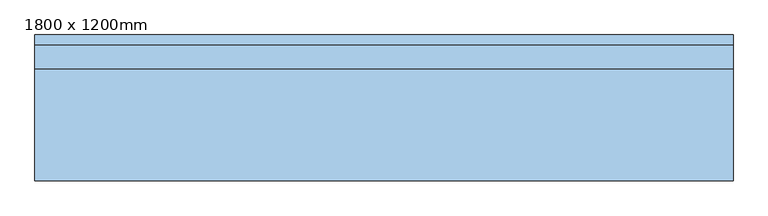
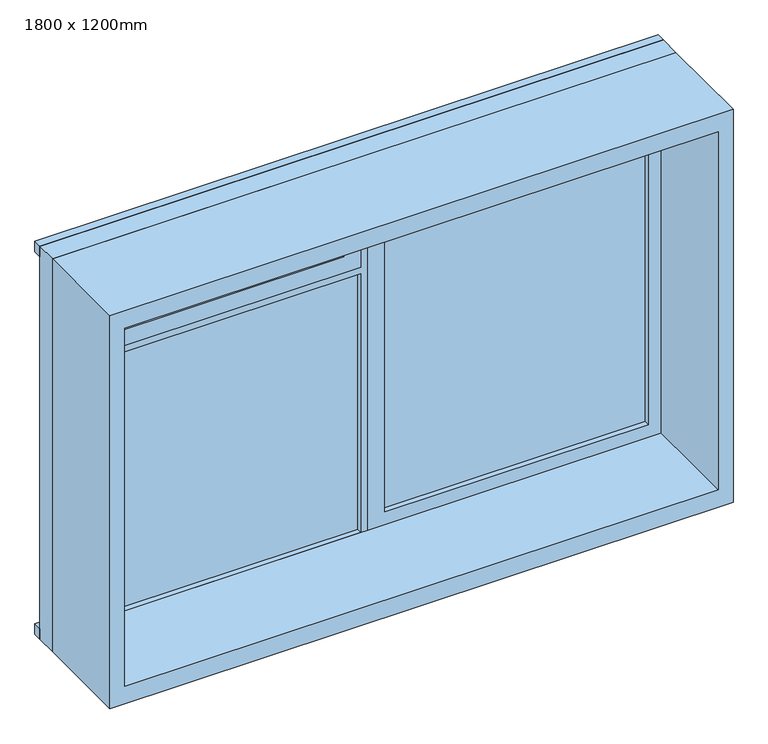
"""IFC4 building model written with IfcOpenShell, lengths in millimetres: window geometry, DvoukridleVentilace : 1800 x 1200mm."""

import ifcopenshell
import ifcopenshell.guid

model = None  # the IFC model being written
_history = None  # IfcOwnerHistory: only IFC2X3 demands one
_inside = {}  # id of a spatial element -> (the spatial element, [elements in it])
_under = {}  # id of a project, library or spatial element -> (it, [spatial elements below it])
_declared = {}  # id of a project -> (the project, [libraries it declares])
_typed = {}  # id of a type object -> (the type object, [elements of that type])
_made_of = {}  # id of a material, layer set ... -> (it, [elements and type objects made of it])


def new_model(schema):
    """Start an empty IFC model of exactly this schema.

    Asked for "IFC4X3", IfcOpenShell would pick the latest addendum, in which some entities
    have other attributes; the version numbers below select the first issue.
    IFC2X3 requires an IfcOwnerHistory on every rooted entity: one is made here for all.
    """
    global model, _history
    if schema == "IFC4X3":
        model = ifcopenshell.file(schema_version=(4, 3, 0, 0))
    else:
        model = ifcopenshell.file(schema=schema)
    _inside.clear()
    _under.clear()
    _declared.clear()
    _typed.clear()
    _made_of.clear()
    _history = None
    if model.schema == "IFC2X3":
        org = make("IfcOrganization", Name="unknown")
        user = make(
            "IfcPersonAndOrganization",
            ThePerson=make("IfcPerson", FamilyName="unknown"),
            TheOrganization=org,
        )
        app = make(
            "IfcApplication",
            ApplicationDeveloper=org,
            Version="unknown",
            ApplicationFullName="unknown",
            ApplicationIdentifier="unknown",
        )
        _history = make(
            "IfcOwnerHistory",
            OwningUser=user,
            OwningApplication=app,
            ChangeAction="ADDED",
            CreationDate=0,
        )
    return model


def make(cls, **values):
    """One entity of the class cls with the attributes given. An attribute that is None is left unset."""
    return model.create_entity(
        cls, **{name: value for name, value in values.items() if value is not None}
    )


def rooted(cls, **values):
    """An entity with a GlobalId (a new one), such as an element, a storey or a relation."""
    return make(cls, GlobalId=ifcopenshell.guid.new(), OwnerHistory=_history, **values)


def si_unit(unit_type, name, prefix=None):
    """IfcSIUnit, for example si_unit("LENGTHUNIT", "METRE", prefix="MILLI")."""
    return make("IfcSIUnit", UnitType=unit_type, Prefix=prefix, Name=name)


def assignment(units):
    """IfcUnitAssignment: the units of a project."""
    return None if units is None else make("IfcUnitAssignment", Units=units)


def point(xyz):
    """IfcCartesianPoint."""
    return None if xyz is None else make("IfcCartesianPoint", Coordinates=xyz)


def direction(xyz):
    """IfcDirection."""
    return None if xyz is None else make("IfcDirection", DirectionRatios=xyz)


def frame(location, z_axis=None, x_axis=None):
    """IfcAxis2Placement3D, a coordinate frame: its origin and axes. An axis left out is left unset."""
    return make(
        "IfcAxis2Placement3D",
        Location=point(location),
        Axis=direction(z_axis),
        RefDirection=direction(x_axis),
    )


def origin():
    """The frame at (0, 0, 0) with its axes left unset."""
    return frame((0.0, 0.0, 0.0))


def place(relative_to, where):
    """IfcLocalPlacement: puts the frame where relative to a parent placement (None: the world)."""
    return make(
        "IfcLocalPlacement", PlacementRelTo=relative_to, RelativePlacement=where
    )


def context(
    kind, dimensions, precision=None, world=None, true_north=None, identifier=None
):
    """IfcGeometricRepresentationContext, for example the 3D "Model" context."""
    return make(
        "IfcGeometricRepresentationContext",
        ContextIdentifier=identifier,
        ContextType=kind,
        CoordinateSpaceDimension=dimensions,
        Precision=precision,
        WorldCoordinateSystem=world,
        TrueNorth=true_north,
    )


def project(units=None, contexts=None):
    """IfcProject with its units and contexts."""
    return rooted(
        "IfcProject",
        Name="project",
        RepresentationContexts=contexts,
        UnitsInContext=assignment(units),
    )


def spatial(cls, under=None, at=None, **own):
    """A site, building, storey or space (cls), placed at a placement, below another one or the project."""
    s = rooted(cls, ObjectPlacement=at, **own)
    if under is not None:
        _under.setdefault(under.id(), (under, []))[1].append(s)
    return s


def polyline(points):
    """IfcPolyline through the points."""
    return make("IfcPolyline", Points=[point(p) for p in points])


def outline(outer, holes=None, kind="AREA"):
    """IfcArbitraryClosedProfileDef: a profile drawn as a closed curve; with holes, ...WithVoids."""
    if holes is None:
        return make("IfcArbitraryClosedProfileDef", ProfileType=kind, OuterCurve=outer)
    return make(
        "IfcArbitraryProfileDefWithVoids",
        ProfileType=kind,
        OuterCurve=outer,
        InnerCurves=holes,
    )


def extrude(swept, where, along, depth):
    """IfcExtrudedAreaSolid: the profile swept, set in the frame where, extruded along a direction by depth."""
    return make(
        "IfcExtrudedAreaSolid",
        SweptArea=swept,
        Position=where,
        ExtrudedDirection=direction(along),
        Depth=depth,
    )


def shape(context_of_items, identifier, shape_type, items):
    """IfcShapeRepresentation: the items that make up one representation, for example the "Body"."""
    return make(
        "IfcShapeRepresentation",
        ContextOfItems=context_of_items,
        RepresentationIdentifier=identifier,
        RepresentationType=shape_type,
        Items=items,
    )


def source(mapping_origin, context_of_items, identifier, shape_type, items):
    """IfcRepresentationMap: a shape defined once, which mapped items show again and again."""
    return make(
        "IfcRepresentationMap",
        MappingOrigin=mapping_origin,
        MappedRepresentation=shape(context_of_items, identifier, shape_type, items),
    )


def transform(
    local_origin,
    x_axis=None,
    y_axis=None,
    z_axis=None,
    scale=None,
    scale2=None,
    scale3=None,
    uniform=True,
):
    """IfcCartesianTransformationOperator3D, or its non-uniform kind. x_axis, y_axis, z_axis: its Axis1, 2, 3."""
    if uniform:
        return make(
            "IfcCartesianTransformationOperator3D",
            Axis1=direction(x_axis),
            Axis2=direction(y_axis),
            LocalOrigin=point(local_origin),
            Scale=scale,
            Axis3=direction(z_axis),
        )
    return make(
        "IfcCartesianTransformationOperator3DnonUniform",
        Axis1=direction(x_axis),
        Axis2=direction(y_axis),
        LocalOrigin=point(local_origin),
        Scale=scale,
        Axis3=direction(z_axis),
        Scale2=scale2,
        Scale3=scale3,
    )


def mapped(mapping_source, mapping_target):
    """IfcMappedItem: shows the shape of a source again, moved by a transform."""
    return make(
        "IfcMappedItem", MappingSource=mapping_source, MappingTarget=mapping_target
    )


def made_of(thing, what):
    """Note that an element or type object is made of a material, layer set ...; save() writes the relation."""
    if what is not None:
        _made_of.setdefault(what.id(), (what, []))[1].append(thing)
    return thing


def element(
    cls,
    number,
    at=None,
    inside=None,
    cuts=None,
    type_object=None,
    material=None,
    context=None,
    identifier="Body",
    shape_type=None,
    held_by="IfcProductDefinitionShape",
    body=None,
    shapes=None,
    **own,
):
    """One element of the class cls, such as IfcWall. Its Tag is "e" and its number.

    at: its placement. inside: the storey or other place that contains it. cuts: it is an
    opening in that element (IfcRelVoidsElement). A single representation is given by context,
    identifier, shape_type and body (its items); several are given by shapes. held_by: the class
    of the entity that holds the representations. save() writes the other relations.
    """
    e = rooted(cls, Tag="e%d" % number, ObjectPlacement=at, **own)
    if body is not None:
        shapes = [shape(context, identifier, shape_type, body)]
    if shapes is not None:
        e.Representation = make(held_by, Representations=shapes)
    if inside is not None:
        _inside.setdefault(inside.id(), (inside, []))[1].append(e)
    if cuts is not None:
        rooted(
            "IfcRelVoidsElement", RelatingBuildingElement=cuts, RelatedOpeningElement=e
        )
    if type_object is not None:
        _typed.setdefault(type_object.id(), (type_object, []))[1].append(e)
    return made_of(e, material)


def aggregate(whole, parts):
    """IfcRelAggregates: a whole, such as a stair, and the parts it consists of."""
    return rooted("IfcRelAggregates", RelatingObject=whole, RelatedObjects=parts)


def save(model, path):
    """Write the relations noted so far, then the file.

    IfcRelAggregates (storeys below a building ...), IfcRelContainedInSpatialStructure (elements
    in a storey), IfcRelDefinesByType, IfcRelAssociatesMaterial and IfcRelDeclares: one each for
    every whole, place, type object, material and project.
    """
    for whole, parts in _under.values():
        aggregate(whole, parts)
    for where, things in _inside.values():
        rooted(
            "IfcRelContainedInSpatialStructure",
            RelatedElements=things,
            RelatingStructure=where,
        )
    for kind, things in _typed.values():
        rooted("IfcRelDefinesByType", RelatedObjects=things, RelatingType=kind)
    for what, things in _made_of.values():
        rooted("IfcRelAssociatesMaterial", RelatedObjects=things, RelatingMaterial=what)
    for by, libraries in _declared.values():
        rooted("IfcRelDeclares", RelatingContext=by, RelatedDefinitions=libraries)
    model.write(path)


def window_1800_x_1200mm_82a41733(model_context):
    return source(origin(), model_context, "Body", "SweptSolid", [
        extrude(outline(polyline([(-820.25, 140.075), (-59.0, 140.075), (-59.0, 127.375), (-820.25, 127.375), (-820.25, 140.075)])), frame((0.0, 0.0, 1826.8), z_axis=(0.0, 0.0, 1.0), x_axis=(1.0, 0.0, 0.0)), (0.0, 0.0, 1.0), 198.45),
        extrude(outline(polyline([(1777.8, -869.25), (1777.8, -10.0), (2072.0, -10.0), (2072.0, -869.25), (1777.8, -869.25)]), holes=[polyline([(1826.8, -820.25), (2025.25, -820.25), (2025.25, -59.0), (1826.8, -59.0), (1826.8, -820.25)])]), frame((0.0, 111.5, 0.0), z_axis=(0.0, 1.0, 0.0), x_axis=(0.0, 0.0, 1.0)), (0.0, 0.0, 1.0), 44.45),
        extrude(outline(polyline([(-857.0, 140.075), (-10.0, 140.075), (-10.0, 127.375), (-857.0, 127.375), (-857.0, 140.075)])), frame((0.0, 0.0, 968.0), z_axis=(0.0, 0.0, 1.0), x_axis=(1.0, 0.0, 0.0)), (0.0, 0.0, 1.0), 789.8),
        extrude(outline(polyline([(-900.0, 200.4), (900.0, 200.4), (900.0, 175.0), (-900.0, 175.0), (-900.0, 200.4)])), frame((0.0, 0.0, 2083.55), z_axis=(0.0, 0.0, 1.0), x_axis=(1.0, 0.0, 0.0)), (0.0, 0.0, 1.0), 31.45),
        extrude(outline(polyline([(-900.0, 200.4), (900.0, 200.4), (900.0, 175.0), (-900.0, 175.0), (-900.0, 200.4)])), frame((0.0, 0.0, 915.0), z_axis=(0.0, 0.0, 1.0), x_axis=(1.0, 0.0, 0.0)), (0.0, 0.0, 1.0), 31.45),
        extrude(outline(polyline([(820.25, 127.375), (59.0, 127.375), (59.0, 140.075), (820.25, 140.075), (820.25, 127.375)])), frame((0.0, 0.0, 1007.0), z_axis=(0.0, 0.0, 1.0), x_axis=(1.0, 0.0, 0.0)), (0.0, 0.0, 1.0), 1016.0),
        extrude(outline(polyline([(2072.0, 10.0), (958.0, 10.0), (958.0, 869.25), (2072.0, 869.25), (2072.0, 10.0)]), holes=[polyline([(2023.0, 59.0), (2023.0, 820.25), (1007.0, 820.25), (1007.0, 59.0), (2023.0, 59.0)])]), frame((0.0, 111.5, 0.0), z_axis=(0.0, 1.0, 0.0), x_axis=(0.0, 0.0, 1.0)), (0.0, 0.0, 1.0), 44.45),
        extrude(outline(polyline([(2115.0, -900.0), (915.0, -900.0), (915.0, 900.0), (2115.0, 900.0), (2115.0, -900.0)]), holes=[polyline([(2062.0, -857.0), (2062.0, 857.0), (968.0, 857.0), (968.0, -857.0), (2062.0, -857.0)])]), frame((0.0, -175.0, 0.0), z_axis=(0.0, 1.0, 0.0), x_axis=(0.0, 0.0, 1.0)), (0.0, 0.0, 1.0), 286.5),
        extrude(outline(polyline([(2115.0, 900.0), (2115.0, -900.0), (915.0, -900.0), (915.0, 900.0), (2115.0, 900.0)]), holes=[polyline([(1757.8, -10.0), (968.0, -10.0), (968.0, -857.0), (1757.8, -857.0), (1757.8, -10.0)]), polyline([(958.0, 869.25), (958.0, 10.0), (2072.0, 10.0), (2072.0, 869.25), (958.0, 869.25)]), polyline([(1777.8, -10.0), (1777.8, -869.25), (2072.0, -869.25), (2072.0, -10.0), (1777.8, -10.0)])]), frame((0.0, 111.5, 0.0), z_axis=(0.0, 1.0, 0.0), x_axis=(0.0, 0.0, 1.0)), (0.0, 0.0, 1.0), 63.5),
    ])


if __name__ == "__main__":
    model = new_model("IFC4")
    model_context = context("Model", 3, world=origin())
    ifc_project = project(units=[si_unit("LENGTHUNIT", "METRE", prefix="MILLI")], contexts=[model_context])
    site = spatial("IfcSite", under=ifc_project)
    building = spatial("IfcBuilding", under=site)
    placement = place(None, origin())
    window_1800_x_1200mm_shape = window_1800_x_1200mm_82a41733(model_context)
    element("IfcWindow", 1, ObjectType="DvoukridleVentilace : 1800 x 1200mm", at=placement, inside=building, context=model_context, shape_type="MappedRepresentation", body=[
        mapped(window_1800_x_1200mm_shape, transform((0.0, 0.0, 0.0), x_axis=(1.0, 0.0, 0.0), y_axis=(0.0, 1.0, 0.0), z_axis=(0.0, 0.0, 1.0))),
    ])
    save(model, "model.ifc")
